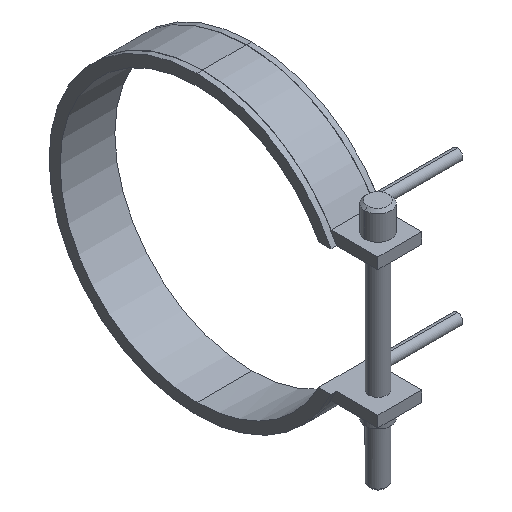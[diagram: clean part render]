
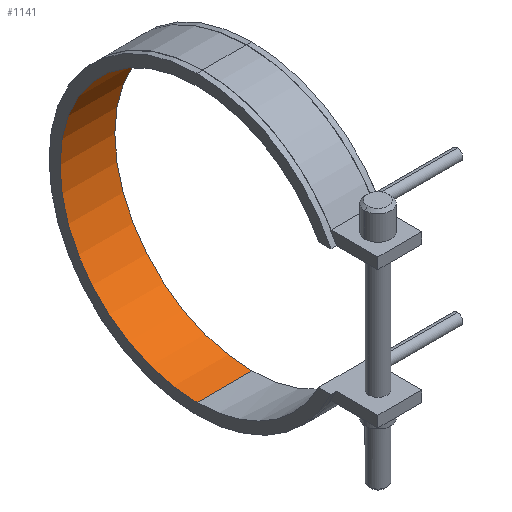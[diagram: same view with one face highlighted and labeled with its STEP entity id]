
A CAD part, isometric view. The second image highlights one B-rep face of the part: STEP entity #1141.
In plain terms, the highlighted cylindrical face has radius 50 mm (diameter 100 mm), a partial arc.
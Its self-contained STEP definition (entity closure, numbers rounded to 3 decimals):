
#822=CARTESIAN_POINT('Vertex',(-10.,0.,-50.)) ;
#829=CARTESIAN_POINT('Vertex',(10.,0.,-50.)) ;
#832=CARTESIAN_POINT('Line Origine',(10.,0.,-50.)) ;
#850=CARTESIAN_POINT('Axis2P3D Location',(-10.,0.,0.)) ;
#854=CARTESIAN_POINT('Vertex',(-10.,0.,50.)) ;
#911=CARTESIAN_POINT('Vertex',(10.,0.,50.)) ;
#921=CARTESIAN_POINT('Line Origine',(10.,0.,50.)) ;
#1012=CARTESIAN_POINT('Axis2P3D Location',(10.,0.,0.)) ;
#1130=CARTESIAN_POINT('Axis2P3D Location',(10.,0.,0.)) ;
#833=DIRECTION('Vector Direction',(1.,0.,0.)) ;
#851=DIRECTION('Axis2P3D Direction',(1.,0.,0.)) ;
#922=DIRECTION('Vector Direction',(1.,0.,0.)) ;
#1013=DIRECTION('Axis2P3D Direction',(1.,0.,0.)) ;
#1131=DIRECTION('Axis2P3D Direction',(1.,0.,-0.)) ;
#1132=DIRECTION('Axis2P3D XDirection',(0.,0.,-1.)) ;
#852=AXIS2_PLACEMENT_3D('Circle Axis2P3D',#850,#851,$) ;
#1014=AXIS2_PLACEMENT_3D('Circle Axis2P3D',#1012,#1013,$) ;
#1133=AXIS2_PLACEMENT_3D('Cylinder Axis2P3D',#1130,#1131,#1132) ;
#1136=ORIENTED_EDGE('',*,*,#1016,.T.) ;
#1137=ORIENTED_EDGE('',*,*,#925,.T.) ;
#1138=ORIENTED_EDGE('',*,*,#856,.F.) ;
#1139=ORIENTED_EDGE('',*,*,#836,.T.) ;
#834=VECTOR('Line Direction',#833,1.) ;
#923=VECTOR('Line Direction',#922,1.) ;
#1141=ADVANCED_FACE('14100020',(#1140),#1134,.F.) ;
#853=CIRCLE('generated circle',#852,50.) ;
#1015=CIRCLE('generated circle',#1014,50.) ;
#1134=CYLINDRICAL_SURFACE('generated cylinder',#1133,50.) ;
#836=EDGE_CURVE('',#823,#830,#835,.T.) ;
#856=EDGE_CURVE('',#823,#855,#853,.T.) ;
#925=EDGE_CURVE('',#912,#855,#924,.F.) ;
#1016=EDGE_CURVE('',#830,#912,#1015,.T.) ;
#1135=EDGE_LOOP('',(#1136,#1137,#1138,#1139)) ;
#1140=FACE_OUTER_BOUND('',#1135,.T.) ;
#835=LINE('Line',#832,#834) ;
#924=LINE('Line',#921,#923) ;
#823=VERTEX_POINT('',#822) ;
#830=VERTEX_POINT('',#829) ;
#855=VERTEX_POINT('',#854) ;
#912=VERTEX_POINT('',#911) ;
